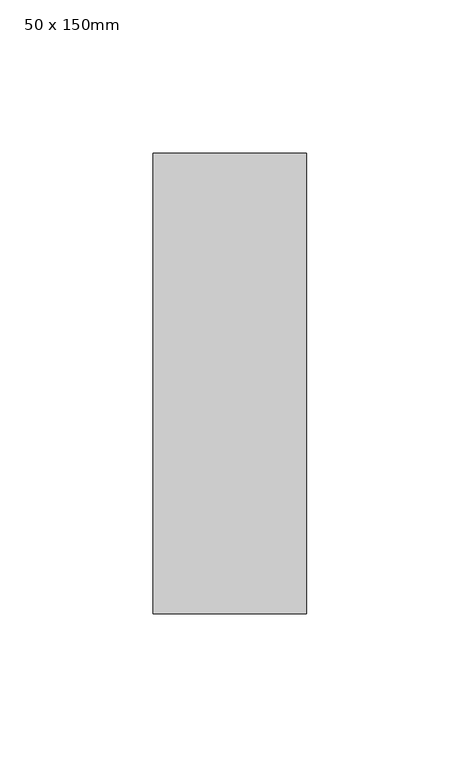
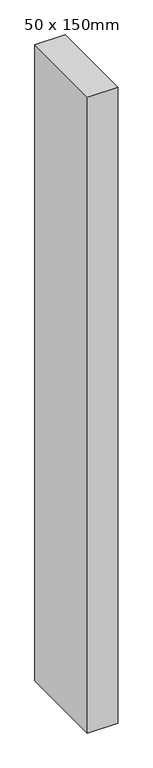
"""IFC4 building model written with IfcOpenShell, lengths in millimetres: member geometry, Прямоугольный импост : 50 x 150mm."""

from ifc_helpers import new_model, si_unit, frame, origin, place, context, project, spatial, polyline, outline, extrude, source, transform, mapped, element, save


def member_50_x_150mm_7c62c7d9(model_context):
    return source(origin(), model_context, "Body", "SweptSolid", [
        extrude(outline(polyline([(0.0, 75.0), (0.0, -75.0), (-50.0, -75.0), (-50.0, 75.0), (0.0, 75.0)])), frame((0.0, 0.0, -1110.0), z_axis=(0.0, 0.0, 1.0), x_axis=(1.0, 0.0, 0.0)), (0.0, 0.0, 1.0), 1110.0),
    ])


if __name__ == "__main__":
    model = new_model("IFC4")
    model_context = context("Model", 3, world=origin())
    ifc_project = project(units=[si_unit("LENGTHUNIT", "METRE", prefix="MILLI")], contexts=[model_context])
    site = spatial("IfcSite", under=ifc_project)
    building = spatial("IfcBuilding", under=site)
    placement = place(None, origin())
    member_50_x_150mm_shape = member_50_x_150mm_7c62c7d9(model_context)
    element("IfcMember", 1, ObjectType="Прямоугольный импост : 50 x 150mm", at=placement, inside=building, context=model_context, shape_type="MappedRepresentation", body=[
        mapped(member_50_x_150mm_shape, transform((0.0, 0.0, 0.0), x_axis=(1.0, 0.0, 0.0), y_axis=(0.0, 1.0, 0.0), z_axis=(0.0, 0.0, 1.0))),
    ])
    save(model, "model.ifc")
